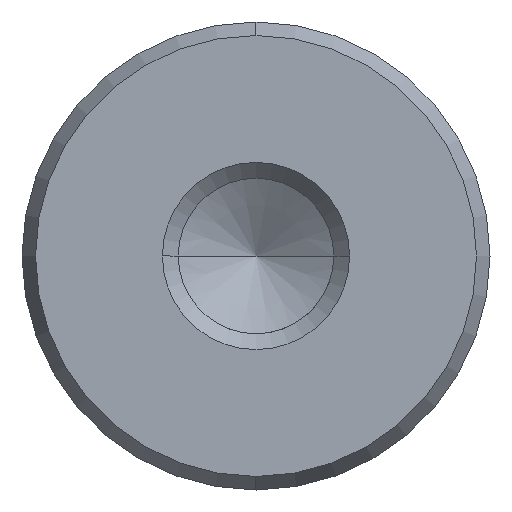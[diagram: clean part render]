
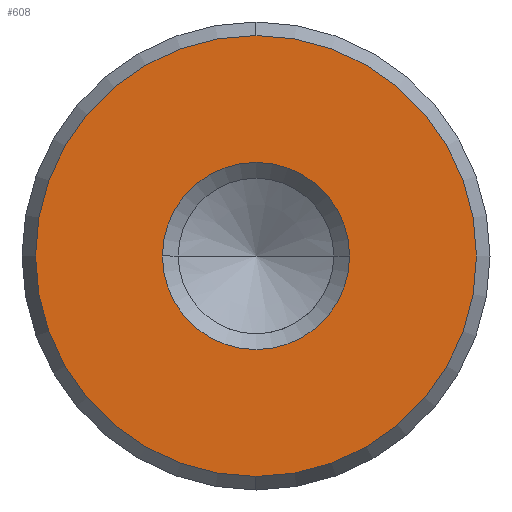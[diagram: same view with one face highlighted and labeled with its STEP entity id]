
A CAD part, left-side view. The second image highlights one B-rep face of the part: STEP entity #608.
In plain terms, the highlighted planar face has unit normal (-1, 0, 0).
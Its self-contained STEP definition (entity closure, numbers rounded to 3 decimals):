
#522=CARTESIAN_POINT('Vertex',(0.,0.,-9.423)) ;
#525=CARTESIAN_POINT('Axis2P3D Location',(0.,0.,0.)) ;
#529=CARTESIAN_POINT('Vertex',(0.,9.423,0.)) ;
#532=CARTESIAN_POINT('Axis2P3D Location',(0.,0.,0.)) ;
#536=CARTESIAN_POINT('Vertex',(0.,0.,9.423)) ;
#558=CARTESIAN_POINT('Axis2P3D Location',(0.,0.,0.)) ;
#562=CARTESIAN_POINT('Vertex',(0.,-9.423,0.)) ;
#565=CARTESIAN_POINT('Axis2P3D Location',(0.,0.,0.)) ;
#579=CARTESIAN_POINT('Axis2P3D Location',(0.,0.,0.)) ;
#590=CARTESIAN_POINT('Axis2P3D Location',(0.,0.,0.)) ;
#594=CARTESIAN_POINT('Vertex',(0.,4.,0.)) ;
#596=CARTESIAN_POINT('Vertex',(0.,-4.,0.)) ;
#599=CARTESIAN_POINT('Axis2P3D Location',(0.,0.,0.)) ;
#526=DIRECTION('Axis2P3D Direction',(1.,0.,-0.)) ;
#533=DIRECTION('Axis2P3D Direction',(1.,0.,-0.)) ;
#559=DIRECTION('Axis2P3D Direction',(1.,0.,-0.)) ;
#566=DIRECTION('Axis2P3D Direction',(1.,0.,-0.)) ;
#580=DIRECTION('Axis2P3D Direction',(1.,0.,-0.)) ;
#581=DIRECTION('Axis2P3D XDirection',(-0.,0.,-1.)) ;
#591=DIRECTION('Axis2P3D Direction',(1.,0.,-0.)) ;
#600=DIRECTION('Axis2P3D Direction',(1.,0.,-0.)) ;
#527=AXIS2_PLACEMENT_3D('Circle Axis2P3D',#525,#526,$) ;
#534=AXIS2_PLACEMENT_3D('Circle Axis2P3D',#532,#533,$) ;
#560=AXIS2_PLACEMENT_3D('Circle Axis2P3D',#558,#559,$) ;
#567=AXIS2_PLACEMENT_3D('Circle Axis2P3D',#565,#566,$) ;
#582=AXIS2_PLACEMENT_3D('Plane Axis2P3D',#579,#580,#581) ;
#592=AXIS2_PLACEMENT_3D('Circle Axis2P3D',#590,#591,$) ;
#601=AXIS2_PLACEMENT_3D('Circle Axis2P3D',#599,#600,$) ;
#585=ORIENTED_EDGE('',*,*,#531,.F.) ;
#586=ORIENTED_EDGE('',*,*,#569,.F.) ;
#587=ORIENTED_EDGE('',*,*,#564,.F.) ;
#588=ORIENTED_EDGE('',*,*,#538,.F.) ;
#605=ORIENTED_EDGE('',*,*,#598,.T.) ;
#606=ORIENTED_EDGE('',*,*,#603,.T.) ;
#607=FACE_BOUND('',#604,.T.) ;
#608=ADVANCED_FACE('720-20x160',(#589,#607),#583,.F.) ;
#528=CIRCLE('generated circle',#527,9.423) ;
#535=CIRCLE('generated circle',#534,9.423) ;
#561=CIRCLE('generated circle',#560,9.423) ;
#568=CIRCLE('generated circle',#567,9.423) ;
#593=CIRCLE('generated circle',#592,4.) ;
#602=CIRCLE('generated circle',#601,4.) ;
#531=EDGE_CURVE('',#523,#530,#528,.T.) ;
#538=EDGE_CURVE('',#530,#537,#535,.T.) ;
#564=EDGE_CURVE('',#537,#563,#561,.T.) ;
#569=EDGE_CURVE('',#563,#523,#568,.T.) ;
#598=EDGE_CURVE('',#595,#597,#593,.T.) ;
#603=EDGE_CURVE('',#597,#595,#602,.T.) ;
#584=EDGE_LOOP('',(#585,#586,#587,#588)) ;
#604=EDGE_LOOP('',(#605,#606)) ;
#589=FACE_OUTER_BOUND('',#584,.T.) ;
#583=PLANE('Plane',#582) ;
#523=VERTEX_POINT('',#522) ;
#530=VERTEX_POINT('',#529) ;
#537=VERTEX_POINT('',#536) ;
#563=VERTEX_POINT('',#562) ;
#595=VERTEX_POINT('',#594) ;
#597=VERTEX_POINT('',#596) ;
